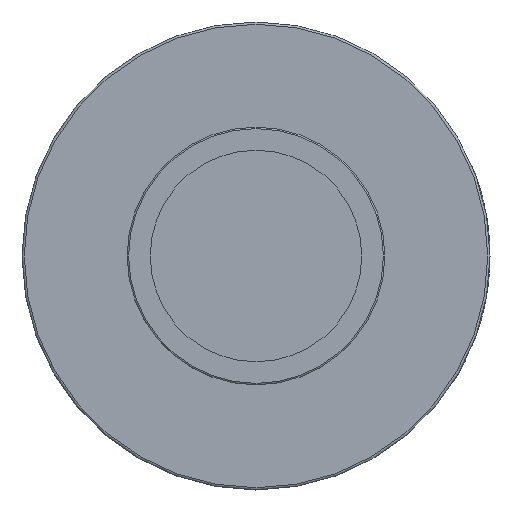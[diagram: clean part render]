
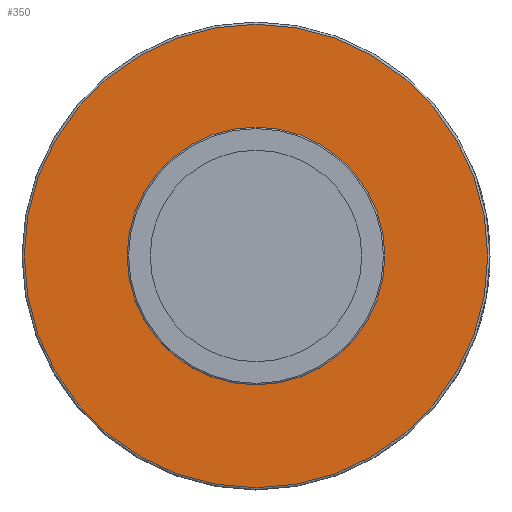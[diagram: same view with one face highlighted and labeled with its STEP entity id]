
A CAD part, left-side view. The second image highlights one B-rep face of the part: STEP entity #350.
In plain terms, the highlighted planar face has unit normal (-1, 0, 0).
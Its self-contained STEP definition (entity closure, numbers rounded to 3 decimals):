
#350 = ADVANCED_FACE( '', ( #849, #850 ), #851, .F. );
#849 = FACE_BOUND( '', #1864, .T. );
#850 = FACE_OUTER_BOUND( '', #1865, .T. );
#851 = PLANE( '', #1866 );
#1864 = EDGE_LOOP( '', ( #3637 ) );
#1865 = EDGE_LOOP( '', ( #3638 ) );
#1866 = AXIS2_PLACEMENT_3D( '', #3639, #3640, #3641 );
#3637 = ORIENTED_EDGE( '', *, *, #5168, .F. );
#3638 = ORIENTED_EDGE( '', *, *, #5169, .T. );
#3639 = CARTESIAN_POINT( '', ( 29.515, 0., 28.842 ) );
#3640 = DIRECTION( '', ( 1., 0., 0. ) );
#3641 = DIRECTION( '', ( 0., 0., -1. ) );
#5168 = EDGE_CURVE( '', #6088, #6088, #6089, .T. );
#5169 = EDGE_CURVE( '', #6090, #6090, #6091, .T. );
#6088 = VERTEX_POINT( '', #7877 );
#6089 = CIRCLE( '', #7878, 28.842 );
#6090 = VERTEX_POINT( '', #7879 );
#6091 = CIRCLE( '', #7880, 51.88 );
#7877 = CARTESIAN_POINT( '', ( 29.515, 0., 28.842 ) );
#7878 = AXIS2_PLACEMENT_3D( '', #9259, #9260, #9261 );
#7879 = CARTESIAN_POINT( '', ( 29.515, 0., 51.88 ) );
#7880 = AXIS2_PLACEMENT_3D( '', #9262, #9263, #9264 );
#9259 = CARTESIAN_POINT( '', ( 29.515, 0., 0. ) );
#9260 = DIRECTION( '', ( -1., 0., 0. ) );
#9261 = DIRECTION( '', ( 0., 0., 1. ) );
#9262 = CARTESIAN_POINT( '', ( 29.515, 0., 0. ) );
#9263 = DIRECTION( '', ( -1., 0., 0. ) );
#9264 = DIRECTION( '', ( 0., 0., 1. ) );
